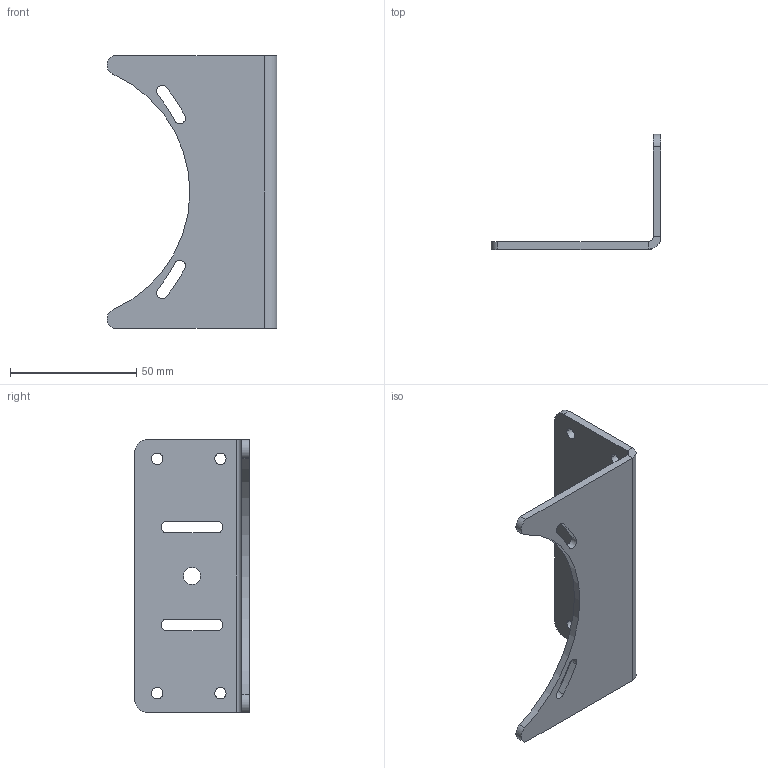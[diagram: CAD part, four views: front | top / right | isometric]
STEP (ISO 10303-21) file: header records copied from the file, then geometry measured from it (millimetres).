
FILE_DESCRIPTION (( 'STEP AP214' ), '1' );
FILE_NAME ('RM140 Adjustable Bracket_R2.step', '2018-09-21T13:38:53', ( '' ), ( '' ), 'SwSTEP 2.0', 'SolidWorks 2018', '' );
FILE_SCHEMA (( 'AUTOMOTIVE_DESIGN' ));
Length unit declared in the file: millimetre
Products named in the file (1): RM140 Adjustable Bracket_R2
Bounding box: 67.29 x 45.5 x 108 mm (x, y, z)
Volume: 26852.2 mm3; surface area: 20053.1 mm2
Topology: 1 solids, 1 shells, 50 faces, 136 edges, 88 vertices
Faces by surface type: cylinder 35, plane 15
Entity records: 1676 total; most frequent: DIRECTION 308, CARTESIAN_POINT 275, ORIENTED_EDGE 272, EDGE_CURVE 136, AXIS2_PLACEMENT_3D 121, VERTEX_POINT 88, CIRCLE 70, EDGE_LOOP 68
